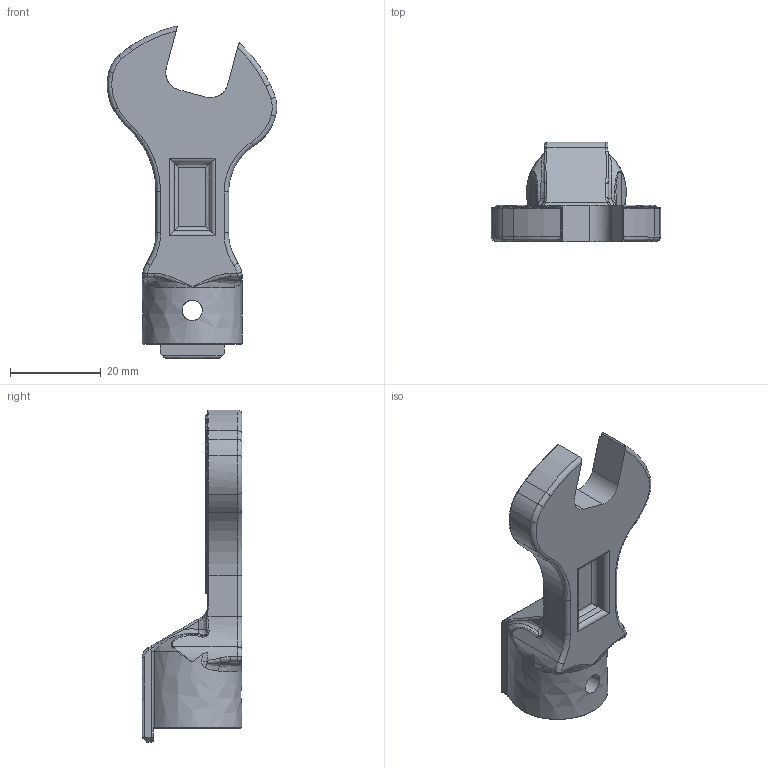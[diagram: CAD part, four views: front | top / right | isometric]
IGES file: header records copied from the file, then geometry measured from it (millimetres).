
Global section: file name: SH15DX14; native system: Autodesk Inventor 2016; preprocessor: unknown; author: Q600; date: 20151029.181310; units: millimetre
Bounding box: 37.34 x 22 x 73.14 mm (x, y, z)
Volume: 12404.2 mm3; surface area: 6260 mm2
Topology: 1 solids, 1 shells, 201 faces, 506 edges, 301 vertices
Faces by surface type: bspline 201
